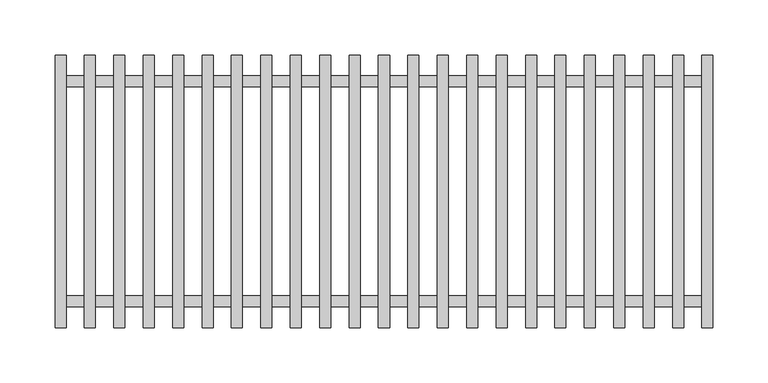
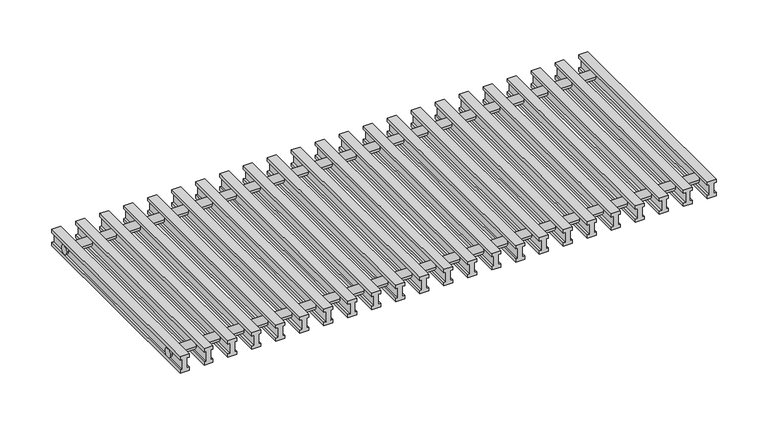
"""IFC4 building model written with IfcOpenShell, lengths in millimetres: proxy geometry, ♦ : РРД_Рулонная деревянная/ Светлое дерево."""

from ifc_helpers import new_model, si_unit, point, frame, frame_2d, origin, place, context, project, spatial, polyline, circle_curve, trimmed, segment, composite_curve, outline, extrude, source, transform, mapped, element, save


def mechanical_equipment_595e6932(model_context):
    return source(origin(), model_context, "Body", "SweptSolid", [
        extrude(outline(polyline([(0.0, 572.0909091), (0.0, 562.0909091), (-3.86, 562.0909091), (-3.86, 564.5909091), (-15.44, 564.5909091), (-15.44, 562.0909091), (-19.3, 562.0909091), (-19.3, 572.0909091), (-15.44, 572.0909091), (-15.44, 569.5909091), (-3.86, 569.5909091), (-3.86, 572.0909091), (0.0, 572.0909091)])), frame((0.0, -123.8, 0.0), z_axis=(0.0, 1.0, 0.0), x_axis=(0.0, 0.0, 1.0)), (0.0, 0.0, 1.0), 247.6),
        extrude(outline(polyline([(0.0, 545.3818182), (0.0, 535.3818182), (-3.86, 535.3818182), (-3.86, 537.8818182), (-15.44, 537.8818182), (-15.44, 535.3818182), (-19.3, 535.3818182), (-19.3, 545.3818182), (-15.44, 545.3818182), (-15.44, 542.8818182), (-3.86, 542.8818182), (-3.86, 545.3818182), (0.0, 545.3818182)])), frame((0.0, -123.8, 0.0), z_axis=(0.0, 1.0, 0.0), x_axis=(0.0, 0.0, 1.0)), (0.0, 0.0, 1.0), 247.6),
        extrude(outline(polyline([(0.0, 518.6727273), (0.0, 508.6727273), (-3.86, 508.6727273), (-3.86, 511.1727273), (-15.44, 511.1727273), (-15.44, 508.6727273), (-19.3, 508.6727273), (-19.3, 518.6727273), (-15.44, 518.6727273), (-15.44, 516.1727273), (-3.86, 516.1727273), (-3.86, 518.6727273), (0.0, 518.6727273)])), frame((0.0, -123.8, 0.0), z_axis=(0.0, 1.0, 0.0), x_axis=(0.0, 0.0, 1.0)), (0.0, 0.0, 1.0), 247.6),
        extrude(outline(polyline([(0.0, 491.9636364), (0.0, 481.9636364), (-3.86, 481.9636364), (-3.86, 484.4636364), (-15.44, 484.4636364), (-15.44, 481.9636364), (-19.3, 481.9636364), (-19.3, 491.9636364), (-15.44, 491.9636364), (-15.44, 489.4636364), (-3.86, 489.4636364), (-3.86, 491.9636364), (0.0, 491.9636364)])), frame((0.0, -123.8, 0.0), z_axis=(0.0, 1.0, 0.0), x_axis=(0.0, 0.0, 1.0)), (0.0, 0.0, 1.0), 247.6),
        extrude(outline(polyline([(0.0, 465.2545455), (0.0, 455.2545455), (-3.86, 455.2545455), (-3.86, 457.7545455), (-15.44, 457.7545455), (-15.44, 455.2545455), (-19.3, 455.2545455), (-19.3, 465.2545455), (-15.44, 465.2545455), (-15.44, 462.7545455), (-3.86, 462.7545455), (-3.86, 465.2545455), (0.0, 465.2545455)])), frame((0.0, -123.8, 0.0), z_axis=(0.0, 1.0, 0.0), x_axis=(0.0, 0.0, 1.0)), (0.0, 0.0, 1.0), 247.6),
        extrude(outline(polyline([(0.0, 438.5454545), (0.0, 428.5454545), (-3.86, 428.5454545), (-3.86, 431.0454545), (-15.44, 431.0454545), (-15.44, 428.5454545), (-19.3, 428.5454545), (-19.3, 438.5454545), (-15.44, 438.5454545), (-15.44, 436.0454545), (-3.86, 436.0454545), (-3.86, 438.5454545), (0.0, 438.5454545)])), frame((0.0, -123.8, 0.0), z_axis=(0.0, 1.0, 0.0), x_axis=(0.0, 0.0, 1.0)), (0.0, 0.0, 1.0), 247.6),
        extrude(outline(polyline([(0.0, 411.8363636), (0.0, 401.8363636), (-3.86, 401.8363636), (-3.86, 404.3363636), (-15.44, 404.3363636), (-15.44, 401.8363636), (-19.3, 401.8363636), (-19.3, 411.8363636), (-15.44, 411.8363636), (-15.44, 409.3363636), (-3.86, 409.3363636), (-3.86, 411.8363636), (0.0, 411.8363636)])), frame((0.0, -123.8, 0.0), z_axis=(0.0, 1.0, 0.0), x_axis=(0.0, 0.0, 1.0)), (0.0, 0.0, 1.0), 247.6),
        extrude(outline(polyline([(0.0, 385.1272727), (0.0, 375.1272727), (-3.86, 375.1272727), (-3.86, 377.6272727), (-15.44, 377.6272727), (-15.44, 375.1272727), (-19.3, 375.1272727), (-19.3, 385.1272727), (-15.44, 385.1272727), (-15.44, 382.6272727), (-3.86, 382.6272727), (-3.86, 385.1272727), (0.0, 385.1272727)])), frame((0.0, -123.8, 0.0), z_axis=(0.0, 1.0, 0.0), x_axis=(0.0, 0.0, 1.0)), (0.0, 0.0, 1.0), 247.6),
        extrude(outline(polyline([(0.0, 358.4181818), (0.0, 348.4181818), (-3.86, 348.4181818), (-3.86, 350.9181818), (-15.44, 350.9181818), (-15.44, 348.4181818), (-19.3, 348.4181818), (-19.3, 358.4181818), (-15.44, 358.4181818), (-15.44, 355.9181818), (-3.86, 355.9181818), (-3.86, 358.4181818), (0.0, 358.4181818)])), frame((0.0, -123.8, 0.0), z_axis=(0.0, 1.0, 0.0), x_axis=(0.0, 0.0, 1.0)), (0.0, 0.0, 1.0), 247.6),
        extrude(outline(polyline([(0.0, 331.7090909), (0.0, 321.7090909), (-3.86, 321.7090909), (-3.86, 324.2090909), (-15.44, 324.2090909), (-15.44, 321.7090909), (-19.3, 321.7090909), (-19.3, 331.7090909), (-15.44, 331.7090909), (-15.44, 329.2090909), (-3.86, 329.2090909), (-3.86, 331.7090909), (0.0, 331.7090909)])), frame((0.0, -123.8, 0.0), z_axis=(0.0, 1.0, 0.0), x_axis=(0.0, 0.0, 1.0)), (0.0, 0.0, 1.0), 247.6),
        extrude(outline(polyline([(0.0, 305.0), (0.0, 295.0), (-3.86, 295.0), (-3.86, 297.5), (-15.44, 297.5), (-15.44, 295.0), (-19.3, 295.0), (-19.3, 305.0), (-15.44, 305.0), (-15.44, 302.5), (-3.86, 302.5), (-3.86, 305.0), (0.0, 305.0)])), frame((0.0, -123.8, 0.0), z_axis=(0.0, 1.0, 0.0), x_axis=(0.0, 0.0, 1.0)), (0.0, 0.0, 1.0), 247.6),
        extrude(outline(polyline([(0.0, 278.2909091), (0.0, 268.2909091), (-3.86, 268.2909091), (-3.86, 270.7909091), (-15.44, 270.7909091), (-15.44, 268.2909091), (-19.3, 268.2909091), (-19.3, 278.2909091), (-15.44, 278.2909091), (-15.44, 275.7909091), (-3.86, 275.7909091), (-3.86, 278.2909091), (0.0, 278.2909091)])), frame((0.0, -123.8, 0.0), z_axis=(0.0, 1.0, 0.0), x_axis=(0.0, 0.0, 1.0)), (0.0, 0.0, 1.0), 247.6),
        extrude(outline(polyline([(0.0, 251.5818182), (0.0, 241.5818182), (-3.86, 241.5818182), (-3.86, 244.0818182), (-15.44, 244.0818182), (-15.44, 241.5818182), (-19.3, 241.5818182), (-19.3, 251.5818182), (-15.44, 251.5818182), (-15.44, 249.0818182), (-3.86, 249.0818182), (-3.86, 251.5818182), (0.0, 251.5818182)])), frame((0.0, -123.8, 0.0), z_axis=(0.0, 1.0, 0.0), x_axis=(0.0, 0.0, 1.0)), (0.0, 0.0, 1.0), 247.6),
        extrude(outline(polyline([(0.0, 224.8727273), (0.0, 214.8727273), (-3.86, 214.8727273), (-3.86, 217.3727273), (-15.44, 217.3727273), (-15.44, 214.8727273), (-19.3, 214.8727273), (-19.3, 224.8727273), (-15.44, 224.8727273), (-15.44, 222.3727273), (-3.86, 222.3727273), (-3.86, 224.8727273), (0.0, 224.8727273)])), frame((0.0, -123.8, 0.0), z_axis=(0.0, 1.0, 0.0), x_axis=(0.0, 0.0, 1.0)), (0.0, 0.0, 1.0), 247.6),
        extrude(outline(polyline([(0.0, 198.1636364), (0.0, 188.1636364), (-3.86, 188.1636364), (-3.86, 190.6636364), (-15.44, 190.6636364), (-15.44, 188.1636364), (-19.3, 188.1636364), (-19.3, 198.1636364), (-15.44, 198.1636364), (-15.44, 195.6636364), (-3.86, 195.6636364), (-3.86, 198.1636364), (0.0, 198.1636364)])), frame((0.0, -123.8, 0.0), z_axis=(0.0, 1.0, 0.0), x_axis=(0.0, 0.0, 1.0)), (0.0, 0.0, 1.0), 247.6),
        extrude(outline(polyline([(0.0, 171.4545455), (0.0, 161.4545455), (-3.86, 161.4545455), (-3.86, 163.9545455), (-15.44, 163.9545455), (-15.44, 161.4545455), (-19.3, 161.4545455), (-19.3, 171.4545455), (-15.44, 171.4545455), (-15.44, 168.9545455), (-3.86, 168.9545455), (-3.86, 171.4545455), (0.0, 171.4545455)])), frame((0.0, -123.8, 0.0), z_axis=(0.0, 1.0, 0.0), x_axis=(0.0, 0.0, 1.0)), (0.0, 0.0, 1.0), 247.6),
        extrude(outline(polyline([(0.0, 144.7454545), (0.0, 134.7454545), (-3.86, 134.7454545), (-3.86, 137.2454545), (-15.44, 137.2454545), (-15.44, 134.7454545), (-19.3, 134.7454545), (-19.3, 144.7454545), (-15.44, 144.7454545), (-15.44, 142.2454545), (-3.86, 142.2454545), (-3.86, 144.7454545), (0.0, 144.7454545)])), frame((0.0, -123.8, 0.0), z_axis=(0.0, 1.0, 0.0), x_axis=(0.0, 0.0, 1.0)), (0.0, 0.0, 1.0), 247.6),
        extrude(outline(polyline([(0.0, 118.0363636), (0.0, 108.0363636), (-3.86, 108.0363636), (-3.86, 110.5363636), (-15.44, 110.5363636), (-15.44, 108.0363636), (-19.3, 108.0363636), (-19.3, 118.0363636), (-15.44, 118.0363636), (-15.44, 115.5363636), (-3.86, 115.5363636), (-3.86, 118.0363636), (0.0, 118.0363636)])), frame((0.0, -123.8, 0.0), z_axis=(0.0, 1.0, 0.0), x_axis=(0.0, 0.0, 1.0)), (0.0, 0.0, 1.0), 247.6),
        extrude(outline(polyline([(0.0, 91.3272727), (0.0, 81.3272727), (-3.86, 81.3272727), (-3.86, 83.8272727), (-15.44, 83.8272727), (-15.44, 81.3272727), (-19.3, 81.3272727), (-19.3, 91.3272727), (-15.44, 91.3272727), (-15.44, 88.8272727), (-3.86, 88.8272727), (-3.86, 91.3272727), (0.0, 91.3272727)])), frame((0.0, -123.8, 0.0), z_axis=(0.0, 1.0, 0.0), x_axis=(0.0, 0.0, 1.0)), (0.0, 0.0, 1.0), 247.6),
        extrude(outline(polyline([(0.0, 64.6181818), (0.0, 54.6181818), (-3.86, 54.6181818), (-3.86, 57.1181818), (-15.44, 57.1181818), (-15.44, 54.6181818), (-19.3, 54.6181818), (-19.3, 64.6181818), (-15.44, 64.6181818), (-15.44, 62.1181818), (-3.86, 62.1181818), (-3.86, 64.6181818), (0.0, 64.6181818)])), frame((0.0, -123.8, 0.0), z_axis=(0.0, 1.0, 0.0), x_axis=(0.0, 0.0, 1.0)), (0.0, 0.0, 1.0), 247.6),
        extrude(outline(polyline([(0.0, 37.9090909), (0.0, 27.9090909), (-3.86, 27.9090909), (-3.86, 30.4090909), (-15.44, 30.4090909), (-15.44, 27.9090909), (-19.3, 27.9090909), (-19.3, 37.9090909), (-15.44, 37.9090909), (-15.44, 35.4090909), (-3.86, 35.4090909), (-3.86, 37.9090909), (0.0, 37.9090909)])), frame((0.0, -123.8, 0.0), z_axis=(0.0, 1.0, 0.0), x_axis=(0.0, 0.0, 1.0)), (0.0, 0.0, 1.0), 247.6),
        extrude(outline(polyline([(0.0, 598.8), (0.0, 588.8), (-3.86, 588.8), (-3.86, 591.3), (-15.44, 591.3), (-15.44, 588.8), (-19.3, 588.8), (-19.3, 598.8), (-15.44, 598.8), (-15.44, 596.3), (-3.86, 596.3), (-3.86, 598.8), (0.0, 598.8)])), frame((0.0, -123.8, 0.0), z_axis=(0.0, 1.0, 0.0), x_axis=(0.0, 0.0, 1.0)), (0.0, 0.0, 1.0), 247.6),
        extrude(outline(polyline([(0.0, 11.2), (0.0, 1.2), (-3.86, 1.2), (-3.86, 3.7), (-15.44, 3.7), (-15.44, 1.2), (-19.3, 1.2), (-19.3, 11.2), (-15.44, 11.2), (-15.44, 8.7), (-3.86, 8.7), (-3.86, 11.2), (0.0, 11.2)])), frame((0.0, -123.8, 0.0), z_axis=(0.0, 1.0, 0.0), x_axis=(0.0, 0.0, 1.0)), (0.0, 0.0, 1.0), 247.6),
        extrude(outline(composite_curve([segment(trimmed(circle_curve(frame_2d((100.0, -9.64)), 5.0), [point((95.0, -9.64))], [point((105.0, -9.64))], False, "CARTESIAN"), True, "CONTINUOUS"), segment(trimmed(circle_curve(frame_2d((100.0, -9.64)), 5.0), [point((105.0, -9.64))], [point((95.0, -9.64))], False, "CARTESIAN"), True, "CONTINUOUS")], self_intersect=False)), frame((1.2, 0.0, 0.0), z_axis=(1.0, 0.0, 0.0), x_axis=(0.0, 1.0, 0.0)), (0.0, 0.0, 1.0), 597.6),
        extrude(outline(composite_curve([segment(trimmed(circle_curve(frame_2d((-100.0, -9.64)), 5.0), [point((-105.0, -9.64))], [point((-95.0, -9.64))], False, "CARTESIAN"), True, "CONTINUOUS"), segment(trimmed(circle_curve(frame_2d((-100.0, -9.64)), 5.0), [point((-95.0, -9.64))], [point((-105.0, -9.64))], False, "CARTESIAN"), True, "CONTINUOUS")], self_intersect=False)), frame((1.2, 0.0, 0.0), z_axis=(1.0, 0.0, 0.0), x_axis=(0.0, 1.0, 0.0)), (0.0, 0.0, 1.0), 597.6),
    ])


if __name__ == "__main__":
    model = new_model("IFC4")
    model_context = context("Model", 3, world=origin())
    ifc_project = project(units=[si_unit("LENGTHUNIT", "METRE", prefix="MILLI")], contexts=[model_context])
    site = spatial("IfcSite", under=ifc_project)
    building = spatial("IfcBuilding", under=site)
    placement = place(None, origin())
    mechanical_equipment_shape = mechanical_equipment_595e6932(model_context)
    element("IfcBuildingElementProxy", 1, Name="♦ : РРД_Рулонная деревянная/ Светлое дерево", ObjectType="♦ : РРД_Рулонная деревянная/ Светлое дерево", at=placement, inside=building, context=model_context, shape_type="MappedRepresentation", body=[
        mapped(mechanical_equipment_shape, transform((0.0, 0.0, 0.0), x_axis=(1.0, 0.0, 0.0), y_axis=(0.0, 1.0, 0.0), z_axis=(0.0, 0.0, 1.0))),
    ])
    save(model, "model.ifc")
